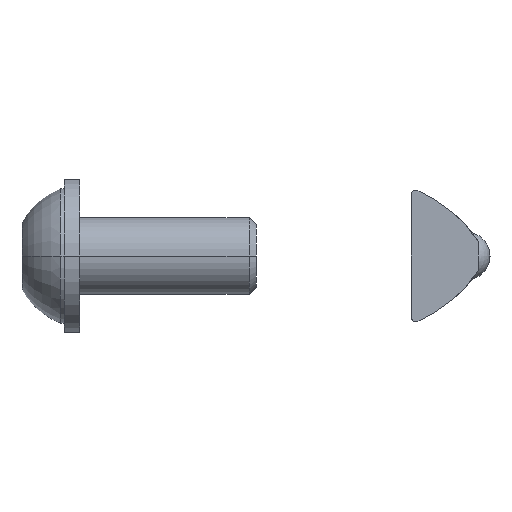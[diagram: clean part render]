
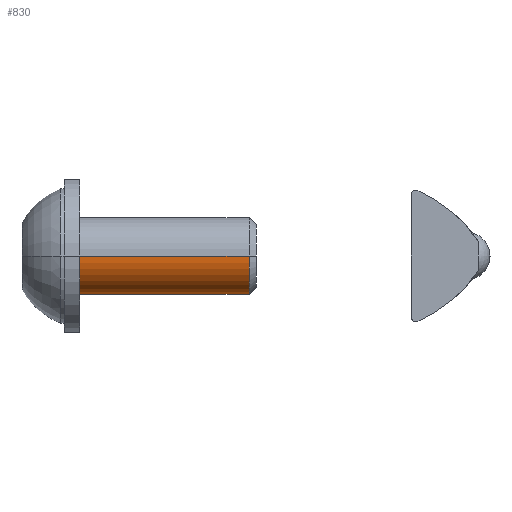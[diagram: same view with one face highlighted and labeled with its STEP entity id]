
A CAD part, left-side view. The second image highlights one B-rep face of the part: STEP entity #830.
In plain terms, the highlighted cylindrical face has radius 4 mm (diameter 8 mm), a partial arc.
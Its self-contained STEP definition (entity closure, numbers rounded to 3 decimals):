
#235 = FACE_OUTER_BOUND ( 'NONE', #1101, .T. ) ;
#294 = VECTOR ( 'NONE', #787, 1000. ) ;
#381 = EDGE_CURVE ( 'NONE', #2493, #1759, #1109, .T. ) ;
#538 = LINE ( 'NONE', #1452, #294 ) ;
#562 = EDGE_CURVE ( 'NONE', #2725, #931, #538, .T. ) ;
#694 = DIRECTION ( 'NONE',  ( 0., 0., -1. ) ) ;
#731 = AXIS2_PLACEMENT_3D ( 'NONE', #1318, #2238, #1979 ) ;
#787 = DIRECTION ( 'NONE',  ( 1., 0., 0. ) ) ;
#792 = CARTESIAN_POINT ( 'NONE',  ( 19.233, 0., 0. ) ) ;
#830 = ADVANCED_FACE ( 'NONE', ( #235 ), #2332, .T. ) ;
#883 = VECTOR ( 'NONE', #1829, 1000. ) ;
#931 = VERTEX_POINT ( 'NONE', #1699 ) ;
#1015 = CARTESIAN_POINT ( 'NONE',  ( 0.2, 0., 4. ) ) ;
#1101 = EDGE_LOOP ( 'NONE', ( #2697, #2809, #1435, #2895 ) ) ;
#1109 = LINE ( 'NONE', #1622, #883 ) ;
#1155 = AXIS2_PLACEMENT_3D ( 'NONE', #792, #2823, #1710 ) ;
#1169 = EDGE_CURVE ( 'NONE', #1759, #931, #1921, .T. ) ;
#1318 = CARTESIAN_POINT ( 'NONE',  ( 0.2, 0., 0. ) ) ;
#1362 = DIRECTION ( 'NONE',  ( 1., 0., 0. ) ) ;
#1435 = ORIENTED_EDGE ( 'NONE', *, *, #562, .T. ) ;
#1452 = CARTESIAN_POINT ( 'NONE',  ( 20., 0., -4. ) ) ;
#1622 = CARTESIAN_POINT ( 'NONE',  ( 20., 0., 4. ) ) ;
#1699 = CARTESIAN_POINT ( 'NONE',  ( 19.233, 0., -4. ) ) ;
#1710 = DIRECTION ( 'NONE',  ( 0., 0., -1. ) ) ;
#1759 = VERTEX_POINT ( 'NONE', #2656 ) ;
#1829 = DIRECTION ( 'NONE',  ( 1., 0., 0. ) ) ;
#1858 = AXIS2_PLACEMENT_3D ( 'NONE', #2535, #1362, #694 ) ;
#1860 = EDGE_CURVE ( 'NONE', #2493, #2725, #2033, .T. ) ;
#1921 = CIRCLE ( 'NONE', #1155, 4. ) ;
#1979 = DIRECTION ( 'NONE',  ( 0., 0., -1. ) ) ;
#2005 = CARTESIAN_POINT ( 'NONE',  ( 0.2, 0., -4. ) ) ;
#2033 = CIRCLE ( 'NONE', #731, 4. ) ;
#2238 = DIRECTION ( 'NONE',  ( 1., 0., 0. ) ) ;
#2332 = CYLINDRICAL_SURFACE ( 'NONE', #1858, 4. ) ;
#2493 = VERTEX_POINT ( 'NONE', #1015 ) ;
#2535 = CARTESIAN_POINT ( 'NONE',  ( 20., 0., 0. ) ) ;
#2656 = CARTESIAN_POINT ( 'NONE',  ( 19.233, 0., 4. ) ) ;
#2697 = ORIENTED_EDGE ( 'NONE', *, *, #381, .F. ) ;
#2725 = VERTEX_POINT ( 'NONE', #2005 ) ;
#2809 = ORIENTED_EDGE ( 'NONE', *, *, #1860, .T. ) ;
#2823 = DIRECTION ( 'NONE',  ( 1., 0., 0. ) ) ;
#2895 = ORIENTED_EDGE ( 'NONE', *, *, #1169, .F. ) ;
